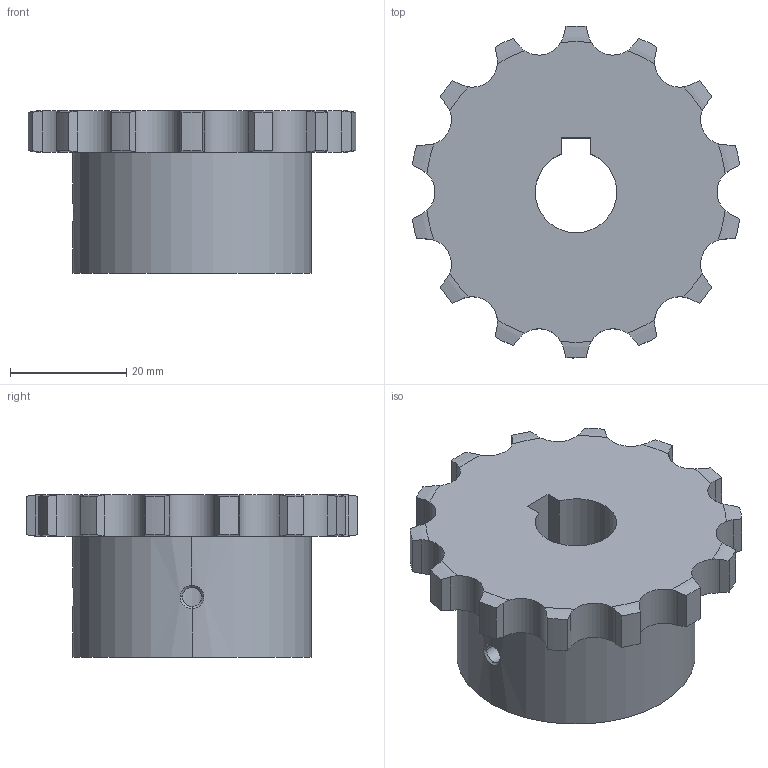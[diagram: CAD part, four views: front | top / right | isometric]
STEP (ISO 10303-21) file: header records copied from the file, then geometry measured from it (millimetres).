
FILE_DESCRIPTION((''),'2;1');
FILE_NAME('510-201-1414_PRT','2021-02-13T',('Brieden'),('Brieden'),'PRO/ENGINEER BY PARAMETRIC TECHNOLOGY CORPORATION, 2010160','PRO/ENGINEER BY PARAMETRIC TECHNOLOGY CORPORATION, 2010160','');
FILE_SCHEMA(('AUTOMOTIVE_DESIGN { 1 0 10303 214 1 1 1 1 }'));
Length unit declared in the file: millimetre
Products named in the file (1): 510-201-1414_PRT
Bounding box: 56.31 x 57.06 x 28 mm (x, y, z)
Volume: 38116.2 mm3; surface area: 9883.6 mm2
Topology: 1 solids, 1 shells, 103 faces, 297 edges, 196 vertices
Faces by surface type: cylinder 63, torus 28, plane 6, bspline 6
Entity records: 5076 total; most frequent: CARTESIAN_POINT 1577, ORIENTED_EDGE 594, DIRECTION 457, PRESENTATION_STYLE_ASSIGNMENT 298, STYLED_ITEM 298, CURVE_STYLE 297, EDGE_CURVE 297, VERTEX_POINT 196
